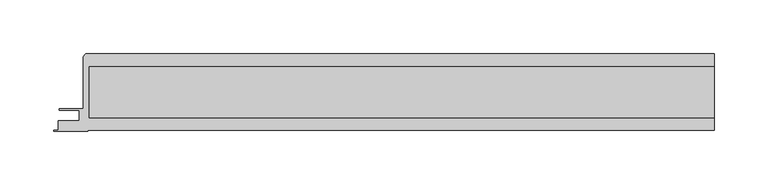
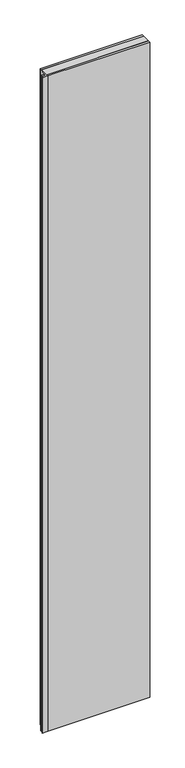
"""IFC4 building model written with IfcOpenShell, lengths in millimetres: plate geometry, Walls_External-Walls_Danpal_Danpatherm-K7-with-NM-Frame : Walls_External-Walls_Danpal_Danpatherm-K7-with-NM-Frame."""

from ifc_helpers import new_model, si_unit, point, frame, frame_2d, origin, place, context, project, spatial, polyline, circle_curve, trimmed, segment, composite_curve, outline, extrude, source, transform, mapped, element, save


def plate_6cc84480(model_context):
    return source(origin(), model_context, "Body", "SweptSolid", [
        extrude(outline(polyline([(-288.4351701, 60.3432727), (294.031549, 60.3432727), (294.031549, 12.7999917), (-288.4351701, 12.7999917), (-288.4351701, 60.3432727)])), frame((0.0, 0.0, -22.0), z_axis=(0.0, 0.0, 1.0), x_axis=(1.0, 0.0, 0.0)), (0.0, 0.0, 1.0), 3970.063098),
        extrude(outline(composite_curve([segment(polyline([(-290.1886401, 72.343285), (294.031549, 72.343285), (294.031549, 60.3432727), (-288.4351701, 60.3432727), (-288.4351701, 12.7999917), (294.031549, 12.7999917), (294.031549, 0.8), (-289.7745404, 0.8), (-289.7745404, 0.0), (-321.6745404, 0.0), (-321.6745404, 0.8), (-317.4745404, 0.8), (-317.4745404, 9.7656785), (-297.6447806, 9.7656785), (-297.6447806, 19.6715177), (-316.6009262, 19.6715177), (-316.6009262, 20.9715623), (-294.031549, 20.9715623), (-294.031549, 68.5003761)]), True, "CONTINUOUS"), segment(trimmed(circle_curve(frame_2d((-290.1886401, 68.5003761)), 3.8429089), [point((-294.031549, 68.5003761))], [point((-290.1886401, 72.343285))], False, "CARTESIAN"), True, "CONTINUOUS")], self_intersect=False)), frame((0.0, 0.0, -22.0), z_axis=(0.0, 0.0, 1.0), x_axis=(1.0, 0.0, 0.0)), (0.0, 0.0, 1.0), 3970.063098),
    ])


if __name__ == "__main__":
    model = new_model("IFC4")
    model_context = context("Model", 3, world=origin())
    ifc_project = project(units=[si_unit("LENGTHUNIT", "METRE", prefix="MILLI")], contexts=[model_context])
    site = spatial("IfcSite", under=ifc_project)
    building = spatial("IfcBuilding", under=site)
    placement = place(None, origin())
    plate_shape = plate_6cc84480(model_context)
    element("IfcPlate", 1, ObjectType="Walls_External-Walls_Danpal_Danpatherm-K7-with-NM-Frame : Walls_External-Walls_Danpal_Danpatherm-K7-with-NM-Frame", at=placement, inside=building, context=model_context, shape_type="MappedRepresentation", body=[
        mapped(plate_shape, transform((0.0, 0.0, 0.0), x_axis=(1.0, 0.0, 0.0), y_axis=(0.0, 1.0, 0.0), z_axis=(0.0, 0.0, 1.0))),
    ])
    save(model, "model.ifc")
